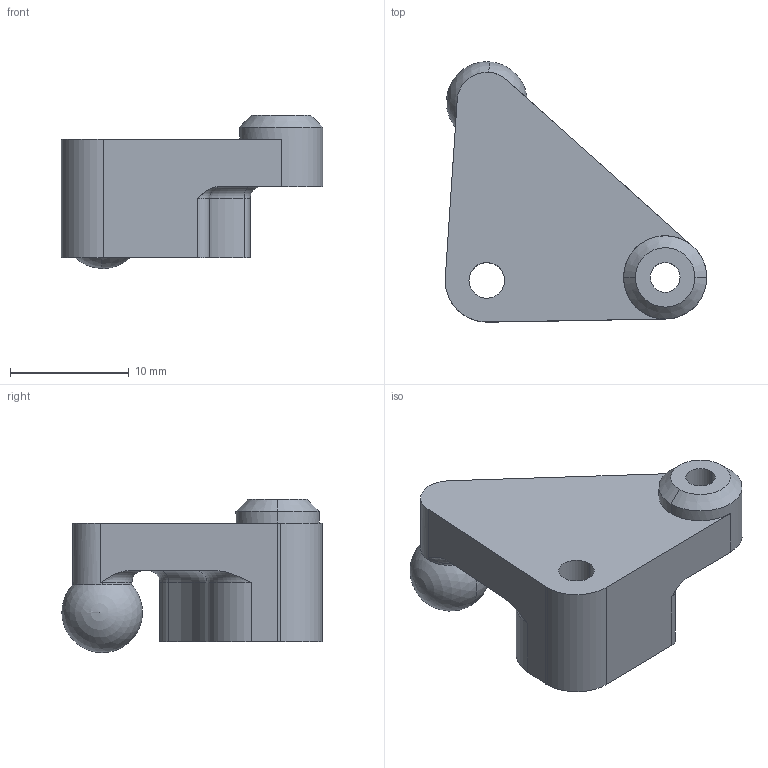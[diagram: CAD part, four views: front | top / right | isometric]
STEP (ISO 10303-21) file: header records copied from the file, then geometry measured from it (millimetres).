
FILE_DESCRIPTION (( 'STEP AP214' ), '1' );
FILE_NAME ('Ì44_ÏÌ_Êà÷åëüêà Àìîðòèçàòîðà Ï.STEP', '2019-03-21T14:13:27', ( '' ), ( '' ), 'SwSTEP 2.0', 'SolidWorks 2018', '' );
FILE_SCHEMA (( 'AUTOMOTIVE_DESIGN' ));
Length unit declared in the file: millimetre
Products named in the file (1): Ì44_ÏÌ_Êà÷åëüêà Àìîðòèçàòîðà Ï
Bounding box: 22 x 21.9 x 12.9 mm (x, y, z)
Volume: 2206.8 mm3; surface area: 1438.6 mm2
Topology: 1 solids, 1 shells, 39 faces, 108 edges, 69 vertices
Faces by surface type: cylinder 17, torus 10, plane 8, cone 2, sphere 2
Entity records: 1308 total; most frequent: CARTESIAN_POINT 256, DIRECTION 236, ORIENTED_EDGE 206, EDGE_CURVE 103, AXIS2_PLACEMENT_3D 100, VERTEX_POINT 66, CIRCLE 60, EDGE_LOOP 43
